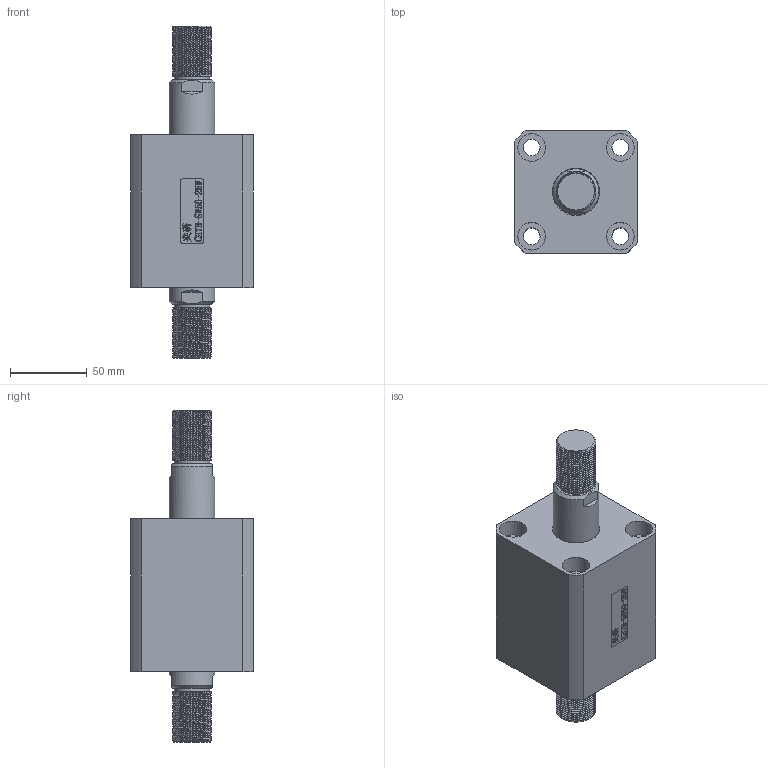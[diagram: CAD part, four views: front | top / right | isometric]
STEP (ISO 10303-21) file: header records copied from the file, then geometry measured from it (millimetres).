
FILE_DESCRIPTION(/* description */ (''),/* implementation_level */ '2;1');
FILE_NAME(/* name */ 'CHTB-SW50-25W.stp',/* time_stamp */ '2022-04-29T18:28:02+08:00',/* author */ (''),/* organization */ (''),/* preprocessor_version */ 'ST-DEVELOPER v16.7',/* originating_system */ 'SIEMENS PLM Software NX 12.0',/* authorisation */ '');
FILE_SCHEMA (('AUTOMOTIVE_DESIGN { 1 0 10303 214 3 1 1 1 }'));
Length unit declared in the file: millimetre
Products named in the file (1): CHTB-SW50-25W
Bounding box: 80 x 80 x 217 mm (x, y, z)
Volume: 606562.6 mm3; surface area: 117866.9 mm2
Topology: 3 solids, 3 shells, 456 faces, 1416 edges, 1018 vertices
Faces by surface type: plane 286, extrusion 81, cylinder 55, cone 14, torus 12, bspline 8
Full cylindrical faces by diameter (mm): 4.2 x2, 6 x2, 10.7 x2, 11 x4, 18 x8, 23 x2, 30 x4, 39 x1, 45 x1, 46 x1, 50 x6, 55 x9, 59 x1
Entity records: 26276 total; most frequent: CARTESIAN_POINT 12717, ORIENTED_EDGE 2644, DIRECTION 1800, EDGE_CURVE 1322, VERTEX_POINT 998, VECTOR 838, LINE 757, EDGE_LOOP 578
